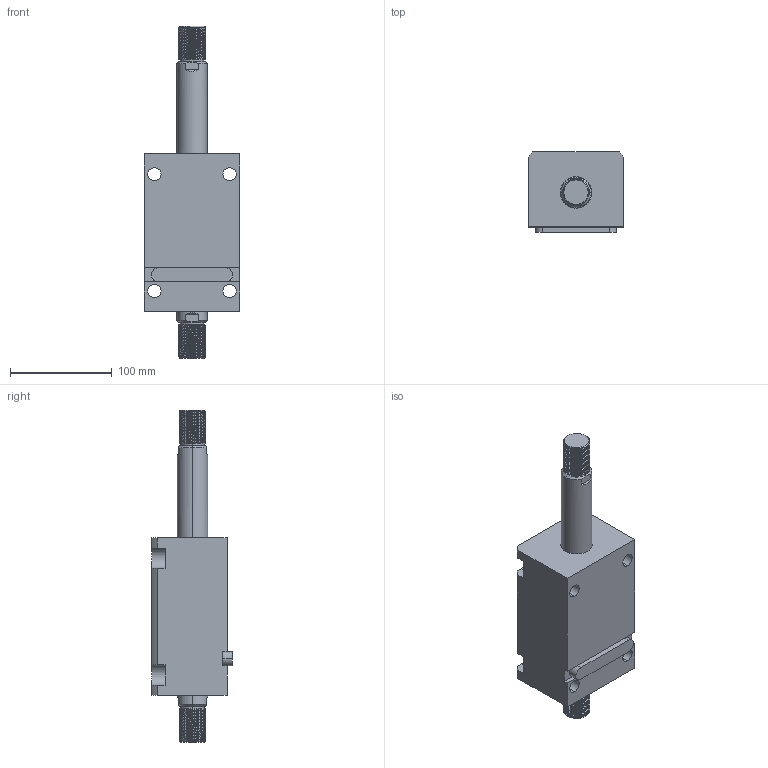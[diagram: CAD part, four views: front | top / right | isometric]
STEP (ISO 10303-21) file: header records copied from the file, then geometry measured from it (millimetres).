
FILE_DESCRIPTION (( 'STEP AP203' ), '1' );
FILE_NAME ('CHTB-LW50-80W.STEP', '2018-05-18T09:06:41', ( '' ), ( '' ), 'SwSTEP 2.0', 'SolidWorks 2015', '' );
FILE_SCHEMA (( 'CONFIG_CONTROL_DESIGN' ));
Length unit declared in the file: millimetre
Products named in the file (4): 掛极LW50-80W; 活塞杆LW50-80W; CHTB-LW50-80W; CHTM-SDMA50QG
Assembly tree (3 placements, depth 2):
  CHTB-LW50-80W
    掛极LW50-80W
    活塞杆LW50-80W
    CHTM-SDMA50QG
Bounding box: 94 x 79 x 327 mm (x, y, z)
Volume: 1028214.6 mm3; surface area: 154209.1 mm2
Topology: 3 solids, 3 shells, 310 faces, 854 edges, 568 vertices
Faces by surface type: cylinder 186, plane 63, cone 27, bspline 18, torus 16
Entity records: 19510 total; most frequent: CARTESIAN_POINT 11940, ORIENTED_EDGE 1700, DIRECTION 1310, EDGE_CURVE 850, VERTEX_POINT 568, AXIS2_PLACEMENT_3D 503, EDGE_LOOP 348, ADVANCED_FACE 310
